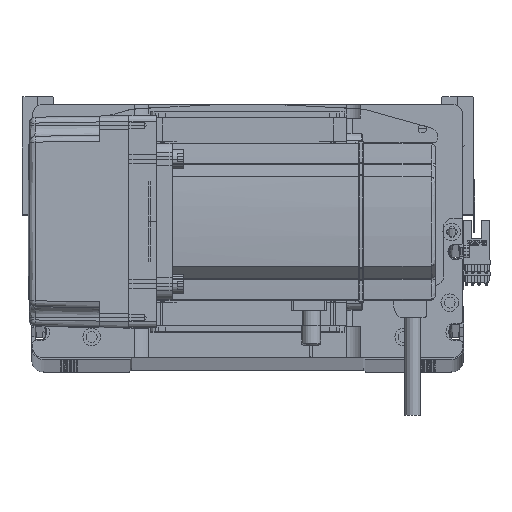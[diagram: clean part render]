
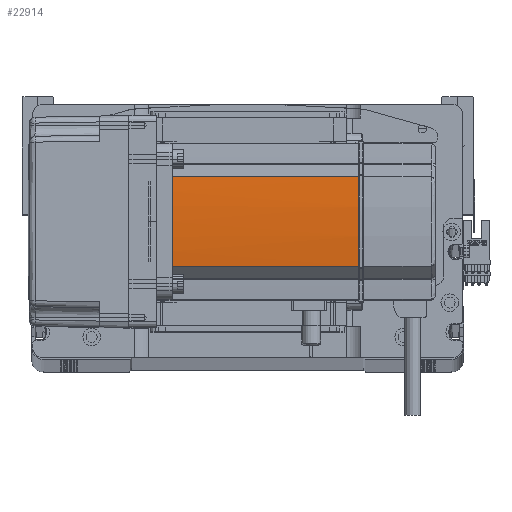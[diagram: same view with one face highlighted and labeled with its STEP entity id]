
A CAD part, top view. The second image highlights one B-rep face of the part: STEP entity #22914.
In plain terms, the highlighted cylindrical face has radius 270 mm (diameter 540 mm), a partial arc.
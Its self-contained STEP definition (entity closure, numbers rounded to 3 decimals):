
#90 = CARTESIAN_POINT ( 'NONE',  ( 39.042, -22.724, 58. ) ) ;
#207 = ORIENTED_EDGE ( 'NONE', *, *, #45515, .T. ) ;
#293 = DIRECTION ( 'NONE',  ( 0., 0., -1. ) ) ;
#2851 = DIRECTION ( 'NONE',  ( 0., 0., -1. ) ) ;
#3020 = CARTESIAN_POINT ( 'NONE',  ( 40., 0.127, 134. ) ) ;
#3409 = VECTOR ( 'NONE', #54617, 1000. ) ;
#4502 = AXIS2_PLACEMENT_3D ( 'NONE', #50517, #17028, #7768 ) ;
#6737 = DIRECTION ( 'NONE',  ( -1., 0., 0. ) ) ;
#7768 = DIRECTION ( 'NONE',  ( -1., 0., 0. ) ) ;
#9164 = VERTEX_POINT ( 'NONE', #36636 ) ;
#9704 = DIRECTION ( 'NONE',  ( -1., 0., 0. ) ) ;
#10218 = VECTOR ( 'NONE', #293, 1000. ) ;
#11131 = B_SPLINE_CURVE_WITH_KNOTS ( 'NONE', 3,
 ( #46765, #46354, #18616, #27273 ),
 .UNSPECIFIED., .F., .F.,
 ( 4, 4 ),
 ( 0., 1. ),
 .UNSPECIFIED. ) ;
#13076 = CARTESIAN_POINT ( 'NONE',  ( 39.042, 22.724, 134. ) ) ;
#15883 = EDGE_CURVE ( 'NONE', #9164, #46248, #48073, .T. ) ;
#15946 = LINE ( 'NONE', #59713, #3409 ) ;
#16961 = AXIS2_PLACEMENT_3D ( 'NONE', #23277, #42154, #60581 ) ;
#17028 = DIRECTION ( 'NONE',  ( 0., 0., -1. ) ) ;
#18616 = CARTESIAN_POINT ( 'NONE',  ( 40., 0.042, 134. ) ) ;
#19009 = ORIENTED_EDGE ( 'NONE', *, *, #42014, .F. ) ;
#21098 = ORIENTED_EDGE ( 'NONE', *, *, #31951, .T. ) ;
#22914 = ADVANCED_FACE ( 'NONE', ( #44045 ), #31604, .T. ) ;
#22948 = ORIENTED_EDGE ( 'NONE', *, *, #15883, .F. ) ;
#23277 = CARTESIAN_POINT ( 'NONE',  ( -230., 0., 39. ) ) ;
#23489 = CARTESIAN_POINT ( 'NONE',  ( 39.042, -22.724, 134. ) ) ;
#23717 = CARTESIAN_POINT ( 'NONE',  ( -230., 0., 58. ) ) ;
#23802 = CIRCLE ( 'NONE', #40317, 270. ) ;
#24942 = LINE ( 'NONE', #90, #10218 ) ;
#27273 = CARTESIAN_POINT ( 'NONE',  ( 40., 0.127, 134. ) ) ;
#30197 = CARTESIAN_POINT ( 'NONE',  ( 40., -0.127, 134. ) ) ;
#31064 = CARTESIAN_POINT ( 'NONE',  ( -230., 0., 134. ) ) ;
#31604 = CYLINDRICAL_SURFACE ( 'NONE', #58481, 270. ) ;
#31951 = EDGE_CURVE ( 'NONE', #9164, #44668, #15946, .T. ) ;
#33218 = ORIENTED_EDGE ( 'NONE', *, *, #44116, .T. ) ;
#36528 = EDGE_CURVE ( 'NONE', #40974, #40359, #23802, .T. ) ;
#36636 = CARTESIAN_POINT ( 'NONE',  ( 39.042, 22.724, 39. ) ) ;
#40317 = AXIS2_PLACEMENT_3D ( 'NONE', #31064, #2851, #6737 ) ;
#40359 = VERTEX_POINT ( 'NONE', #23489 ) ;
#40974 = VERTEX_POINT ( 'NONE', #30197 ) ;
#42014 = EDGE_CURVE ( 'NONE', #40974, #47994, #11131, .T. ) ;
#42154 = DIRECTION ( 'NONE',  ( 0., 0., -1. ) ) ;
#42212 = DIRECTION ( 'NONE',  ( 0., 0., -1. ) ) ;
#43836 = ORIENTED_EDGE ( 'NONE', *, *, #36528, .T. ) ;
#44045 = FACE_OUTER_BOUND ( 'NONE', #46797, .T. ) ;
#44116 = EDGE_CURVE ( 'NONE', #40359, #46248, #24942, .T. ) ;
#44668 = VERTEX_POINT ( 'NONE', #13076 ) ;
#45515 = EDGE_CURVE ( 'NONE', #44668, #47994, #56266, .T. ) ;
#46248 = VERTEX_POINT ( 'NONE', #59399 ) ;
#46354 = CARTESIAN_POINT ( 'NONE',  ( 40., -0.042, 134. ) ) ;
#46765 = CARTESIAN_POINT ( 'NONE',  ( 40., -0.127, 134. ) ) ;
#46797 = EDGE_LOOP ( 'NONE', ( #33218, #22948, #21098, #207, #19009, #43836 ) ) ;
#47994 = VERTEX_POINT ( 'NONE', #3020 ) ;
#48073 = CIRCLE ( 'NONE', #16961, 270. ) ;
#50517 = CARTESIAN_POINT ( 'NONE',  ( -230., 0., 134. ) ) ;
#54617 = DIRECTION ( 'NONE',  ( 0., 0., 1. ) ) ;
#56266 = CIRCLE ( 'NONE', #4502, 270. ) ;
#58481 = AXIS2_PLACEMENT_3D ( 'NONE', #23717, #42212, #9704 ) ;
#59399 = CARTESIAN_POINT ( 'NONE',  ( 39.042, -22.724, 39. ) ) ;
#59713 = CARTESIAN_POINT ( 'NONE',  ( 39.042, 22.724, 58. ) ) ;
#60581 = DIRECTION ( 'NONE',  ( -1., 0., 0. ) ) ;
